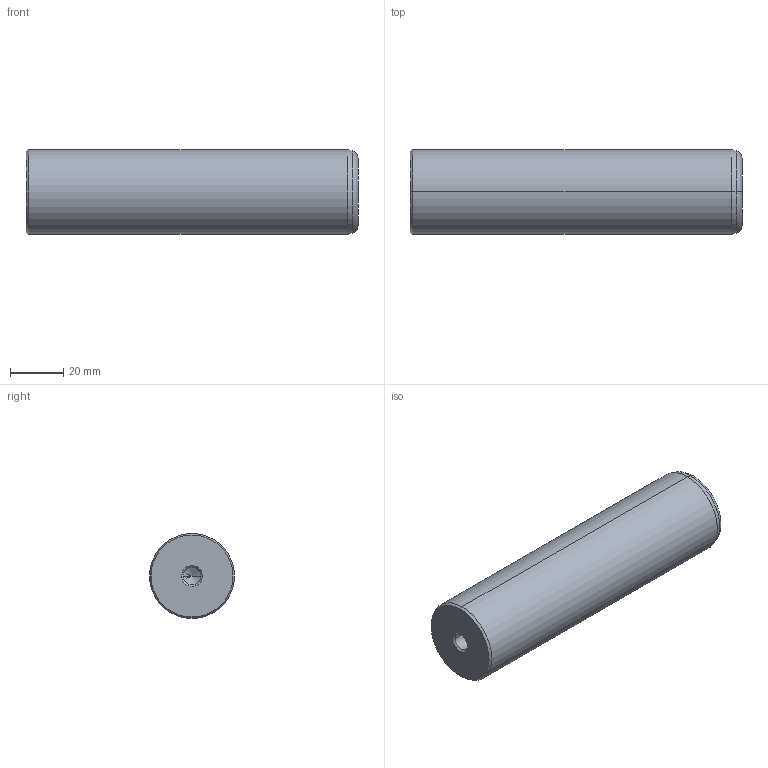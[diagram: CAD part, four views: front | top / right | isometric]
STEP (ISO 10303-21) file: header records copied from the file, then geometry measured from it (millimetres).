
FILE_DESCRIPTION(('CATIA V5 STEP Exchange'),'2;1');
FILE_NAME('C:\Users\Utente\Desktop\IO LAVORO\3D X SITO CF\X SITO\720\720-32x125.stp','2021-01-01T12:21:14+00:00',('none'),('none'),'CATIA Version 5 Release 20 GA (IN-10)','CATIA V5 STEP AP203','none');
FILE_SCHEMA(('CONFIG_CONTROL_DESIGN'));
Length unit declared in the file: millimetre
Products named in the file (1): 720-32x125
Bounding box: 125 x 32 x 32 mm (x, y, z)
Volume: 98478.5 mm3; surface area: 14959.1 mm2
Topology: 1 solids, 1 shells, 22 faces, 62 edges, 40 vertices
Faces by surface type: cone 12, cylinder 6, plane 2, torus 2
Entity records: 806 total; most frequent: CARTESIAN_POINT 229, ORIENTED_EDGE 116, DIRECTION 93, EDGE_CURVE 58, AXIS2_PLACEMENT_3D 54, VERTEX_POINT 40, CIRCLE 31, EDGE_LOOP 24
